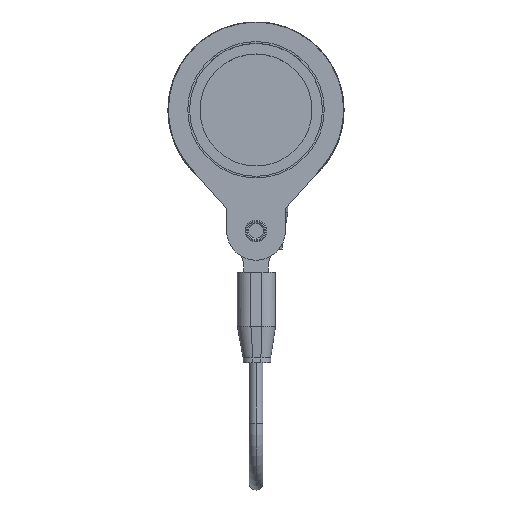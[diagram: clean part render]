
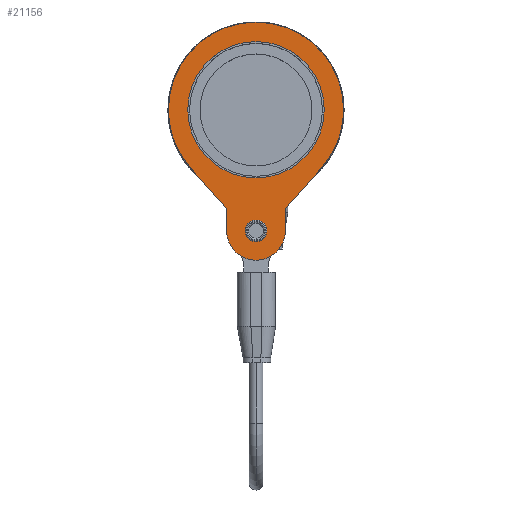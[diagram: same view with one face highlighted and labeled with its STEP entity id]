
A CAD part, top view. The second image highlights one B-rep face of the part: STEP entity #21156.
In plain terms, the highlighted planar face has unit normal (0, 0, 1) as drawn and (0, 0, -1) by its records, which use the part's own axes.
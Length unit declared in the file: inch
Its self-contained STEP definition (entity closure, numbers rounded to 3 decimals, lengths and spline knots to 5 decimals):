
#421 = CARTESIAN_POINT ( 'NONE',  ( 0.45669, 0., -0.01378 ) ) ;
#454 = FACE_BOUND ( 'NONE', #41842, .T. ) ;
#592 = CIRCLE ( 'NONE', #33564, 0.58661 ) ;
#875 = DIRECTION ( 'NONE',  ( 1., 0., 0. ) ) ;
#1885 = AXIS2_PLACEMENT_3D ( 'NONE', #38260, #30919, #38762 ) ;
#2173 = CARTESIAN_POINT ( 'NONE',  ( 0., -0.81102, -0.01378 ) ) ;
#2424 = DIRECTION ( 'NONE',  ( 0., 0., 1. ) ) ;
#2468 = VECTOR ( 'NONE', #27203, 39.37008 ) ;
#3393 = EDGE_CURVE ( 'NONE', #32786, #19663, #48368, .T. ) ;
#3516 = CARTESIAN_POINT ( 'NONE',  ( 0.06102, -0.81102, -0.01378 ) ) ;
#3521 = ORIENTED_EDGE ( 'NONE', *, *, #8227, .F. ) ;
#3981 = EDGE_CURVE ( 'NONE', #39397, #28228, #17815, .T. ) ;
#4611 = EDGE_CURVE ( 'NONE', #36927, #13718, #41208, .T. ) ;
#5161 = DIRECTION ( 'NONE',  ( 0., 0., 1. ) ) ;
#5705 = DIRECTION ( 'NONE',  ( 1., 0., 0. ) ) ;
#5983 = CARTESIAN_POINT ( 'NONE',  ( 0., 0., -0.01378 ) ) ;
#6498 = EDGE_LOOP ( 'NONE', ( #20532, #21765 ) ) ;
#6677 = DIRECTION ( 'NONE',  ( 1., 0., 0. ) ) ;
#6820 = CARTESIAN_POINT ( 'NONE',  ( 0., -0.81102, -0.01378 ) ) ;
#7959 = LINE ( 'NONE', #38943, #42538 ) ;
#8227 = EDGE_CURVE ( 'NONE', #11273, #42348, #20862, .T. ) ;
#9210 = DIRECTION ( 'NONE',  ( 0., 0., 1. ) ) ;
#10447 = CARTESIAN_POINT ( 'NONE',  ( -0.19685, -0.66142, -0.01378 ) ) ;
#10624 = AXIS2_PLACEMENT_3D ( 'NONE', #6820, #45841, #41570 ) ;
#11062 = CIRCLE ( 'NONE', #39230, 0.06102 ) ;
#11266 = EDGE_CURVE ( 'NONE', #46780, #32988, #39280, .T. ) ;
#11273 = VERTEX_POINT ( 'NONE', #28675 ) ;
#12920 = ORIENTED_EDGE ( 'NONE', *, *, #11266, .F. ) ;
#13718 = VERTEX_POINT ( 'NONE', #23907 ) ;
#14002 = EDGE_CURVE ( 'NONE', #13718, #36927, #11062, .T. ) ;
#14260 = DIRECTION ( 'NONE',  ( 0., 1., 0. ) ) ;
#15262 = EDGE_CURVE ( 'NONE', #47965, #39397, #592, .T. ) ;
#15532 = ORIENTED_EDGE ( 'NONE', *, *, #31823, .F. ) ;
#15547 = PLANE ( 'NONE',  #1885 ) ;
#15602 = CARTESIAN_POINT ( 'NONE',  ( 0.19685, -0.66142, -0.01378 ) ) ;
#15843 = CARTESIAN_POINT ( 'NONE',  ( -0.45669, 0., -0.01378 ) ) ;
#16213 = ORIENTED_EDGE ( 'NONE', *, *, #15262, .F. ) ;
#16693 = EDGE_CURVE ( 'NONE', #42348, #47965, #22436, .T. ) ;
#17545 = CARTESIAN_POINT ( 'NONE',  ( 0.19685, -0.66142, -0.01378 ) ) ;
#17815 = CIRCLE ( 'NONE', #25867, 0.58661 ) ;
#18444 = ORIENTED_EDGE ( 'NONE', *, *, #30695, .F. ) ;
#18885 = AXIS2_PLACEMENT_3D ( 'NONE', #2173, #2424, #40711 ) ;
#19663 = VERTEX_POINT ( 'NONE', #15843 ) ;
#20532 = ORIENTED_EDGE ( 'NONE', *, *, #4611, .T. ) ;
#20862 = LINE ( 'NONE', #17545, #33377 ) ;
#21156 = ADVANCED_FACE ( 'NONE', ( #23369, #454, #34982 ), #15547, .F. ) ;
#21334 = DIRECTION ( 'NONE',  ( 0., 0., 1. ) ) ;
#21765 = ORIENTED_EDGE ( 'NONE', *, *, #14002, .T. ) ;
#22390 = VERTEX_POINT ( 'NONE', #43602 ) ;
#22436 = LINE ( 'NONE', #15602, #2468 ) ;
#23369 = FACE_BOUND ( 'NONE', #6498, .T. ) ;
#23847 = CARTESIAN_POINT ( 'NONE',  ( 0., -0.81102, -0.01378 ) ) ;
#23907 = CARTESIAN_POINT ( 'NONE',  ( -0.06102, -0.81102, -0.01378 ) ) ;
#24645 = DIRECTION ( 'NONE',  ( 0.664, -0.747, 0. ) ) ;
#24774 = CIRCLE ( 'NONE', #31218, 0.45669 ) ;
#25069 = CARTESIAN_POINT ( 'NONE',  ( 0., 0., -0.01378 ) ) ;
#25867 = AXIS2_PLACEMENT_3D ( 'NONE', #28049, #5161, #875 ) ;
#26475 = DIRECTION ( 'NONE',  ( 0., 0., 1. ) ) ;
#27131 = DIRECTION ( 'NONE',  ( 0., 0., 1. ) ) ;
#27203 = DIRECTION ( 'NONE',  ( 0.664, 0.747, 0. ) ) ;
#27886 = DIRECTION ( 'NONE',  ( 1., 0., 0. ) ) ;
#28023 = ORIENTED_EDGE ( 'NONE', *, *, #3393, .T. ) ;
#28049 = CARTESIAN_POINT ( 'NONE',  ( 0., 0., -0.01378 ) ) ;
#28228 = VERTEX_POINT ( 'NONE', #37322 ) ;
#28602 = ORIENTED_EDGE ( 'NONE', *, *, #3981, .F. ) ;
#28675 = CARTESIAN_POINT ( 'NONE',  ( 0.19685, -0.81102, -0.01378 ) ) ;
#29256 = ORIENTED_EDGE ( 'NONE', *, *, #34779, .F. ) ;
#29674 = CARTESIAN_POINT ( 'NONE',  ( 0.19685, -0.66142, -0.01378 ) ) ;
#30258 = CARTESIAN_POINT ( 'NONE',  ( 0.58661, 0., -0.01378 ) ) ;
#30695 = EDGE_CURVE ( 'NONE', #32988, #22390, #7959, .T. ) ;
#30919 = DIRECTION ( 'NONE',  ( 0., 0., 1. ) ) ;
#31218 = AXIS2_PLACEMENT_3D ( 'NONE', #25069, #9210, #5705 ) ;
#31823 = EDGE_CURVE ( 'NONE', #28228, #46780, #39329, .T. ) ;
#32786 = VERTEX_POINT ( 'NONE', #421 ) ;
#32988 = VERTEX_POINT ( 'NONE', #10447 ) ;
#33377 = VECTOR ( 'NONE', #14260, 39.37008 ) ;
#33564 = AXIS2_PLACEMENT_3D ( 'NONE', #5983, #21334, #36707 ) ;
#34126 = DIRECTION ( 'NONE',  ( 0., 0., 1. ) ) ;
#34779 = EDGE_CURVE ( 'NONE', #22390, #11273, #37382, .T. ) ;
#34982 = FACE_OUTER_BOUND ( 'NONE', #40955, .T. ) ;
#35164 = DIRECTION ( 'NONE',  ( 0., -1., 0. ) ) ;
#36623 = CARTESIAN_POINT ( 'NONE',  ( 0.43837, -0.3898, -0.01378 ) ) ;
#36707 = DIRECTION ( 'NONE',  ( 1., 0., 0. ) ) ;
#36927 = VERTEX_POINT ( 'NONE', #3516 ) ;
#37322 = CARTESIAN_POINT ( 'NONE',  ( -0.58661, 0., -0.01378 ) ) ;
#37382 = CIRCLE ( 'NONE', #18885, 0.19685 ) ;
#37726 = AXIS2_PLACEMENT_3D ( 'NONE', #45685, #34126, #6677 ) ;
#38260 = CARTESIAN_POINT ( 'NONE',  ( 0., -0.81102, -0.01378 ) ) ;
#38743 = EDGE_CURVE ( 'NONE', #19663, #32786, #24774, .T. ) ;
#38762 = DIRECTION ( 'NONE',  ( 1., 0., 0. ) ) ;
#38943 = CARTESIAN_POINT ( 'NONE',  ( -0.19685, -0.66142, -0.01378 ) ) ;
#39230 = AXIS2_PLACEMENT_3D ( 'NONE', #23847, #27131, #27886 ) ;
#39280 = LINE ( 'NONE', #43803, #49091 ) ;
#39329 = CIRCLE ( 'NONE', #37726, 0.58661 ) ;
#39397 = VERTEX_POINT ( 'NONE', #30258 ) ;
#39639 = CARTESIAN_POINT ( 'NONE',  ( -0.43837, -0.3898, -0.01378 ) ) ;
#40711 = DIRECTION ( 'NONE',  ( 1., 0., 0. ) ) ;
#40955 = EDGE_LOOP ( 'NONE', ( #29256, #18444, #12920, #15532, #28602, #16213, #43741, #3521 ) ) ;
#41208 = CIRCLE ( 'NONE', #10624, 0.06102 ) ;
#41570 = DIRECTION ( 'NONE',  ( 1., 0., 0. ) ) ;
#41842 = EDGE_LOOP ( 'NONE', ( #28023, #42597 ) ) ;
#41878 = DIRECTION ( 'NONE',  ( 1., 0., 0. ) ) ;
#42348 = VERTEX_POINT ( 'NONE', #29674 ) ;
#42538 = VECTOR ( 'NONE', #35164, 39.37008 ) ;
#42597 = ORIENTED_EDGE ( 'NONE', *, *, #38743, .T. ) ;
#43546 = AXIS2_PLACEMENT_3D ( 'NONE', #49663, #26475, #41878 ) ;
#43602 = CARTESIAN_POINT ( 'NONE',  ( -0.19685, -0.81102, -0.01378 ) ) ;
#43741 = ORIENTED_EDGE ( 'NONE', *, *, #16693, .F. ) ;
#43803 = CARTESIAN_POINT ( 'NONE',  ( -0.19685, -0.66142, -0.01378 ) ) ;
#45685 = CARTESIAN_POINT ( 'NONE',  ( 0., 0., -0.01378 ) ) ;
#45841 = DIRECTION ( 'NONE',  ( 0., 0., 1. ) ) ;
#46780 = VERTEX_POINT ( 'NONE', #39639 ) ;
#47965 = VERTEX_POINT ( 'NONE', #36623 ) ;
#48368 = CIRCLE ( 'NONE', #43546, 0.45669 ) ;
#49091 = VECTOR ( 'NONE', #24645, 39.37008 ) ;
#49663 = CARTESIAN_POINT ( 'NONE',  ( 0., 0., -0.01378 ) ) ;
